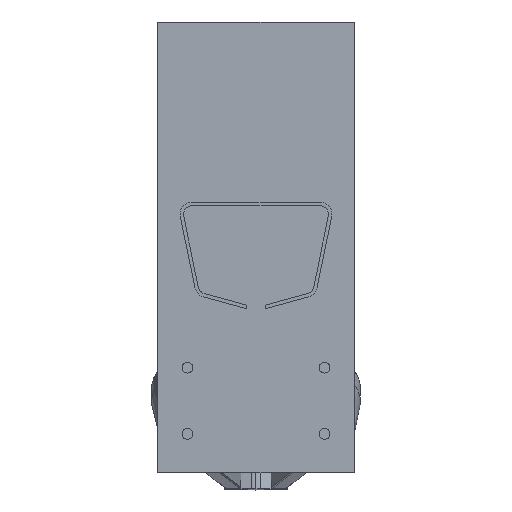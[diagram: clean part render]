
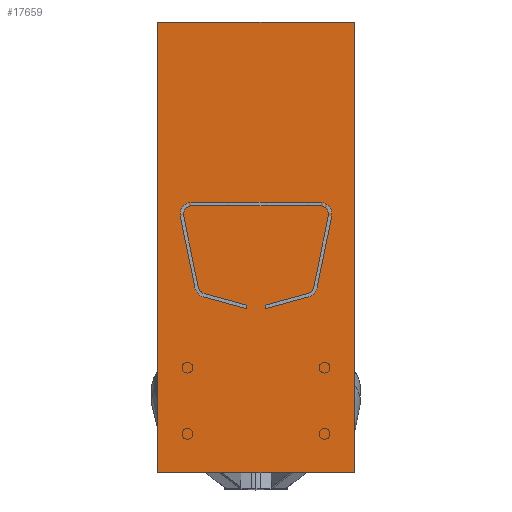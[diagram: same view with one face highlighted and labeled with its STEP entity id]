
A CAD part, front view. The second image highlights one B-rep face of the part: STEP entity #17659.
In plain terms, the highlighted planar face has unit normal (0, 1, 0).
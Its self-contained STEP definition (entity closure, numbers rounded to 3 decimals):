
#4403 = EDGE_CURVE ( 'NONE', #111586, #26734, #60640, .T. ) ;
#4625 = EDGE_CURVE ( 'NONE', #26734, #61533, #43318, .T. ) ;
#13208 = LINE ( 'NONE', #56287, #82449 ) ;
#16918 = VERTEX_POINT ( 'NONE', #68557 ) ;
#17659 = ADVANCED_FACE ( 'NONE', ( #56349 ), #97669, .F. ) ;
#17937 = CARTESIAN_POINT ( 'NONE',  ( -462.093, 0., -184.48 ) ) ;
#21640 = LINE ( 'NONE', #31028, #135945 ) ;
#23413 = DIRECTION ( 'NONE',  ( 0., 0., -1. ) ) ;
#26728 = CARTESIAN_POINT ( 'NONE',  ( -462.093, 0., 1933.817 ) ) ;
#26734 = VERTEX_POINT ( 'NONE', #17937 ) ;
#31028 = CARTESIAN_POINT ( 'NONE',  ( -462.093, 0., 1933.817 ) ) ;
#31257 = VECTOR ( 'NONE', #32055, 1000. ) ;
#32055 = DIRECTION ( 'NONE',  ( -1., 0., 0. ) ) ;
#37367 = DIRECTION ( 'NONE',  ( 0., 0., 1. ) ) ;
#42560 = DIRECTION ( 'NONE',  ( 0., 0., -1. ) ) ;
#43318 = LINE ( 'NONE', #26728, #72686 ) ;
#53147 = EDGE_CURVE ( 'NONE', #61533, #16918, #21640, .T. ) ;
#55106 = EDGE_CURVE ( 'NONE', #16918, #111586, #13208, .T. ) ;
#56287 = CARTESIAN_POINT ( 'NONE',  ( 462.093, 0., 1933.817 ) ) ;
#56349 = FACE_OUTER_BOUND ( 'NONE', #60454, .T. ) ;
#56838 = CARTESIAN_POINT ( 'NONE',  ( 462.093, 0., -184.48 ) ) ;
#60454 = EDGE_LOOP ( 'NONE', ( #120524, #135369, #79691, #62375 ) ) ;
#60640 = LINE ( 'NONE', #109423, #31257 ) ;
#61533 = VERTEX_POINT ( 'NONE', #131769 ) ;
#62375 = ORIENTED_EDGE ( 'NONE', *, *, #53147, .T. ) ;
#64326 = CARTESIAN_POINT ( 'NONE',  ( 0., 0., 0. ) ) ;
#68557 = CARTESIAN_POINT ( 'NONE',  ( 462.093, 0., 1933.817 ) ) ;
#72686 = VECTOR ( 'NONE', #37367, 1000. ) ;
#79691 = ORIENTED_EDGE ( 'NONE', *, *, #4625, .T. ) ;
#82449 = VECTOR ( 'NONE', #23413, 1000. ) ;
#97669 = PLANE ( 'NONE',  #100692 ) ;
#100692 = AXIS2_PLACEMENT_3D ( 'NONE', #64326, #108813, #42560 ) ;
#108813 = DIRECTION ( 'NONE',  ( 0., -1., 0. ) ) ;
#109423 = CARTESIAN_POINT ( 'NONE',  ( -462.093, 0., -184.48 ) ) ;
#111586 = VERTEX_POINT ( 'NONE', #56838 ) ;
#120524 = ORIENTED_EDGE ( 'NONE', *, *, #55106, .T. ) ;
#131769 = CARTESIAN_POINT ( 'NONE',  ( -462.093, 0., 1933.817 ) ) ;
#135369 = ORIENTED_EDGE ( 'NONE', *, *, #4403, .T. ) ;
#135945 = VECTOR ( 'NONE', #141855, 1000. ) ;
#141855 = DIRECTION ( 'NONE',  ( 1., 0., 0. ) ) ;
